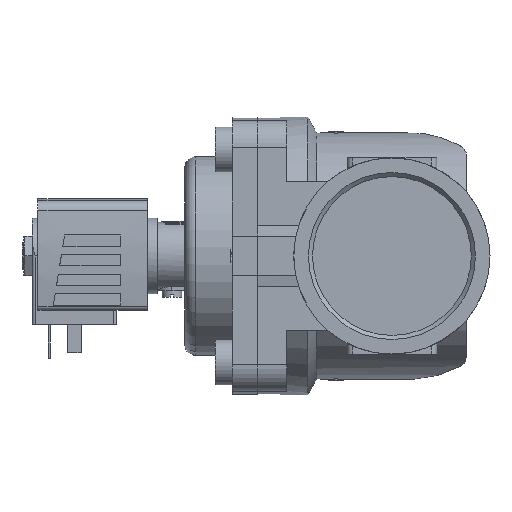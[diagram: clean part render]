
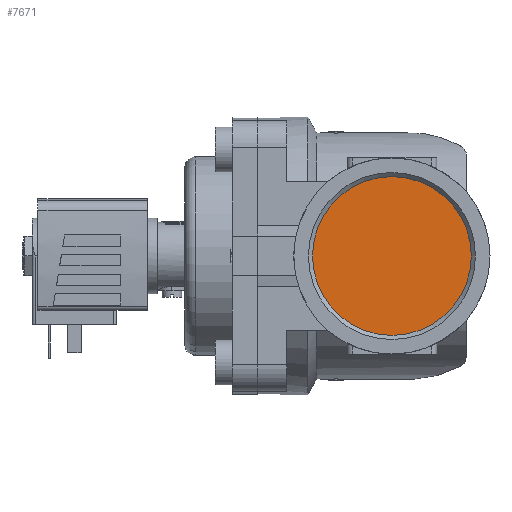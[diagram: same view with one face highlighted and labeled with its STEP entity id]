
A CAD part, left-side view. The second image highlights one B-rep face of the part: STEP entity #7671.
In plain terms, the highlighted planar face has unit normal (-1, 0, 0).
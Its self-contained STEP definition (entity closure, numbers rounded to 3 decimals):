
#326=PLANE('',#8245);
#2894=ORIENTED_EDGE('',*,*,#4114,.F.);
#4114=EDGE_CURVE('',#4833,#4833,#5175,.T.);
#4833=VERTEX_POINT('',#11856);
#5175=CIRCLE('',#8244,28.328);
#5504=EDGE_LOOP('',(#2894));
#5918=FACE_BOUND('',#5504,.T.);
#7671=ADVANCED_FACE('',(#5918),#326,.T.);
#8244=AXIS2_PLACEMENT_3D('',#11855,#9706,#9707);
#8245=AXIS2_PLACEMENT_3D('',#11857,#9708,#9709);
#9706=DIRECTION('',(1.,0.,0.));
#9707=DIRECTION('',(0.,1.,0.));
#9708=DIRECTION('',(-1.,0.,0.));
#9709=DIRECTION('',(0.,-1.,0.));
#11855=CARTESIAN_POINT('',(-41.,0.,0.));
#11856=CARTESIAN_POINT('',(-41.,28.328,0.));
#11857=CARTESIAN_POINT('',(-41.,28.328,0.));
